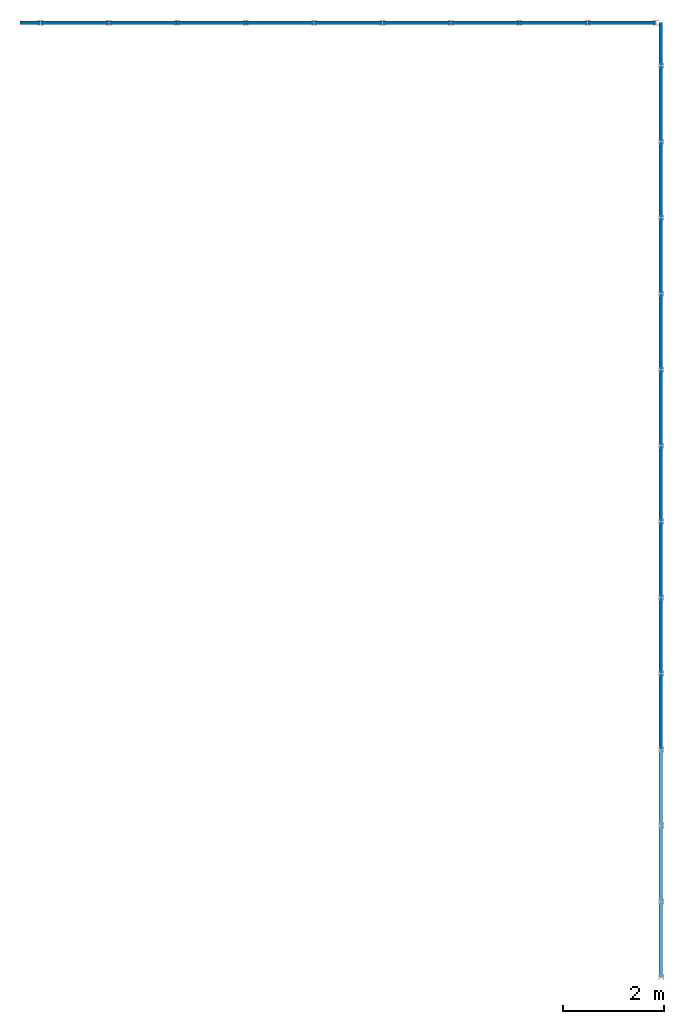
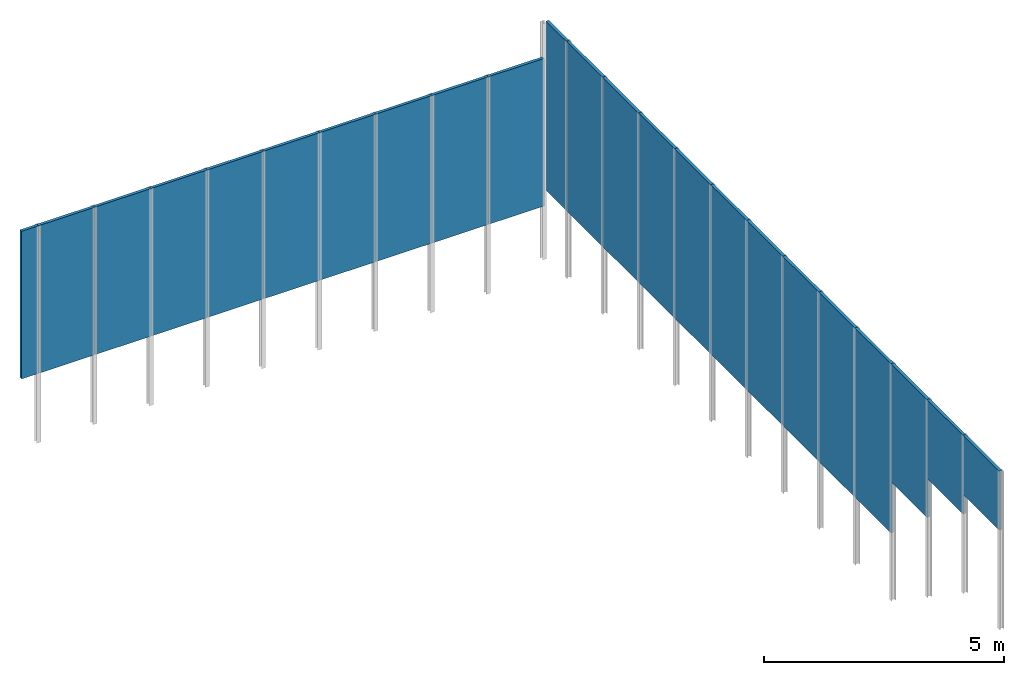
# One storey, part 1 of 4: 23 walls.
"""IFC4 building model written with IfcOpenShell, lengths in metres."""

from ifc_helpers import new_model, entity, si_unit, converted_unit, derived_unit, frame, frame_2d, origin, origin_with_axes, place, context, subcontext, project, spatial, rectangle, extrude, material, layer, layer_set, layer_usage, element, save


model = new_model("IFC4")

# Units and contexts
model_context = context("Model", 3, precision=1e-05, world=origin())
body_context = subcontext(model_context, "Body", "Model", "MODEL_VIEW")
ifc_project = project(units=[si_unit("LENGTHUNIT", "METRE"), si_unit("AREAUNIT", "SQUARE_METRE"), si_unit("VOLUMEUNIT", "CUBIC_METRE"), si_unit("MASSUNIT", "GRAM", prefix="KILO"), converted_unit("PLANEANGLEUNIT", "DEGREE", entity("IfcPlaneAngleMeasure", 0.0174532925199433), si_unit("PLANEANGLEUNIT", "RADIAN"), dimensions=[0, 0, 0, 0, 0, 0, 0]), derived_unit("THERMALTRANSMITTANCEUNIT", [(si_unit("POWERUNIT", "WATT"), 1), (si_unit("THERMODYNAMICTEMPERATUREUNIT", "KELVIN"), -1), (si_unit("LENGTHUNIT", "METRE"), -2)]), derived_unit("VOLUMETRICFLOWRATEUNIT", [(si_unit("LENGTHUNIT", "METRE"), 3), (converted_unit("TIMEUNIT", "hour", entity("IfcTimeMeasure", 3600.0), si_unit("TIMEUNIT", "SECOND"), dimensions=[0, 0, 1, 0, 0, 0, 0]), -1), (si_unit("LENGTHUNIT", "METRE"), -1)])], contexts=[model_context])

# Site, building, storey
site_placement = place(None, origin())
site = spatial("IfcSite", under=ifc_project, at=site_placement, Name="3. ASŘ", CompositionType="ELEMENT")
building_placement = place(site_placement, origin())
building = spatial("IfcBuilding", under=site, at=building_placement, Name="Pavilon C", CompositionType="ELEMENT")
storey_placement = place(building_placement, origin())
storey = spatial("IfcBuildingStorey", under=building, at=storey_placement, Name="Výkopy", CompositionType="ELEMENT", Elevation=0.0)

# Walls
ifc_material_1 = material(Name="VÝDŘEVA")
ifc_layer_1 = layer(ifc_material_1, 0.07)
ifc_layer_set_1 = layer_set([ifc_layer_1])
ifc_layer_usage_1 = layer_usage(ifc_layer_set_1, "AXIS2", "POSITIVE", 0.0)
wall_1_placement = place(storey_placement, frame((64.403, 18.6850000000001, -4.45)))
element("IfcWall", 1, at=wall_1_placement, inside=storey, material=ifc_layer_usage_1, Name="VÝDŘEVA", context=body_context, shape_type="SweptSolid", body=[
    extrude(rectangle(XDim=1.344, YDim=0.07, at=frame_2d((0.672, 0.035), x_axis=(1.0, 0.0))), origin_with_axes(), (0.0, 0.0, 1.0), 3.75),
])
ifc_material_2 = material(Name="VÝDŘEVA")
ifc_layer_2 = layer(ifc_material_2, 0.07)
ifc_layer_set_2 = layer_set([ifc_layer_2])
ifc_layer_usage_2 = layer_usage(ifc_layer_set_2, "AXIS2", "POSITIVE", 0.0)
wall_2_placement = place(storey_placement, frame((63.053, 18.6850000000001, -4.45)))
element("IfcWall", 2, at=wall_2_placement, inside=storey, material=ifc_layer_usage_2, Name="VÝDŘEVA", context=body_context, shape_type="SweptSolid", body=[
    extrude(rectangle(XDim=1.344, YDim=0.07, at=frame_2d((0.672, 0.035), x_axis=(1.0, 0.0))), origin_with_axes(), (0.0, 0.0, 1.0), 3.75),
])
ifc_material_3 = material(Name="VÝDŘEVA")
ifc_layer_3 = layer(ifc_material_3, 0.07)
ifc_layer_set_3 = layer_set([ifc_layer_3])
ifc_layer_usage_3 = layer_usage(ifc_layer_set_3, "AXIS2", "POSITIVE", 0.0)
wall_3_placement = place(storey_placement, frame((61.703, 18.6850000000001, -4.45)))
element("IfcWall", 3, at=wall_3_placement, inside=storey, material=ifc_layer_usage_3, Name="VÝDŘEVA", context=body_context, shape_type="SweptSolid", body=[
    extrude(rectangle(XDim=1.344, YDim=0.07, at=frame_2d((0.672, 0.035), x_axis=(1.0, 0.0))), origin_with_axes(), (0.0, 0.0, 1.0), 3.75),
])
ifc_material_4 = material(Name="VÝDŘEVA")
ifc_layer_4 = layer(ifc_material_4, 0.07)
ifc_layer_set_4 = layer_set([ifc_layer_4])
ifc_layer_usage_4 = layer_usage(ifc_layer_set_4, "AXIS2", "POSITIVE", 0.0)
wall_4_placement = place(storey_placement, frame((60.353, 18.6850000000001, -4.45)))
element("IfcWall", 4, at=wall_4_placement, inside=storey, material=ifc_layer_usage_4, Name="VÝDŘEVA", context=body_context, shape_type="SweptSolid", body=[
    extrude(rectangle(XDim=1.344, YDim=0.07, at=frame_2d((0.672, 0.035), x_axis=(1.0, 0.0))), origin_with_axes(), (0.0, 0.0, 1.0), 3.75),
])
ifc_material_5 = material(Name="VÝDŘEVA")
ifc_layer_5 = layer(ifc_material_5, 0.07)
ifc_layer_set_5 = layer_set([ifc_layer_5])
ifc_layer_usage_5 = layer_usage(ifc_layer_set_5, "AXIS2", "POSITIVE", 0.0)
wall_5_placement = place(storey_placement, frame((59.003, 18.6850000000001, -4.45)))
element("IfcWall", 5, at=wall_5_placement, inside=storey, material=ifc_layer_usage_5, Name="VÝDŘEVA", context=body_context, shape_type="SweptSolid", body=[
    extrude(rectangle(XDim=1.344, YDim=0.07, at=frame_2d((0.672, 0.035), x_axis=(1.0, 0.0))), origin_with_axes(), (0.0, 0.0, 1.0), 3.75),
])
ifc_material_6 = material(Name="VÝDŘEVA")
ifc_layer_6 = layer(ifc_material_6, 0.07)
ifc_layer_set_6 = layer_set([ifc_layer_6])
ifc_layer_usage_6 = layer_usage(ifc_layer_set_6, "AXIS2", "POSITIVE", 0.0)
wall_6_placement = place(storey_placement, frame((57.653, 18.6850000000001, -4.45)))
element("IfcWall", 6, at=wall_6_placement, inside=storey, material=ifc_layer_usage_6, Name="VÝDŘEVA", context=body_context, shape_type="SweptSolid", body=[
    extrude(rectangle(XDim=1.344, YDim=0.07, at=frame_2d((0.672, 0.035), x_axis=(1.0, 0.0))), origin_with_axes(), (0.0, 0.0, 1.0), 3.75),
])
ifc_material_7 = material(Name="VÝDŘEVA")
ifc_layer_7 = layer(ifc_material_7, 0.07)
ifc_layer_set_7 = layer_set([ifc_layer_7])
ifc_layer_usage_7 = layer_usage(ifc_layer_set_7, "AXIS2", "POSITIVE", 0.0)
wall_7_placement = place(storey_placement, frame((56.303, 18.6850000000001, -4.45)))
element("IfcWall", 7, at=wall_7_placement, inside=storey, material=ifc_layer_usage_7, Name="VÝDŘEVA", context=body_context, shape_type="SweptSolid", body=[
    extrude(rectangle(XDim=1.344, YDim=0.07, at=frame_2d((0.672, 0.035), x_axis=(1.0, 0.0))), origin_with_axes(), (0.0, 0.0, 1.0), 3.75),
])
ifc_material_8 = material(Name="VÝDŘEVA")
ifc_layer_8 = layer(ifc_material_8, 0.07)
ifc_layer_set_8 = layer_set([ifc_layer_8])
ifc_layer_usage_8 = layer_usage(ifc_layer_set_8, "AXIS2", "POSITIVE", 0.0)
wall_8_placement = place(storey_placement, frame((54.953, 18.6850000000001, -4.45)))
element("IfcWall", 8, at=wall_8_placement, inside=storey, material=ifc_layer_usage_8, Name="VÝDŘEVA", context=body_context, shape_type="SweptSolid", body=[
    extrude(rectangle(XDim=1.344, YDim=0.07, at=frame_2d((0.672, 0.035), x_axis=(1.0, 0.0))), origin_with_axes(), (0.0, 0.0, 1.0), 3.75),
])
ifc_material_9 = material(Name="VÝDŘEVA")
ifc_layer_9 = layer(ifc_material_9, 0.07)
ifc_layer_set_9 = layer_set([ifc_layer_9])
ifc_layer_usage_9 = layer_usage(ifc_layer_set_9, "AXIS2", "POSITIVE", 0.0)
wall_9_placement = place(storey_placement, frame((53.603, 18.6850000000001, -4.45)))
element("IfcWall", 9, at=wall_9_placement, inside=storey, material=ifc_layer_usage_9, Name="VÝDŘEVA", context=body_context, shape_type="SweptSolid", body=[
    extrude(rectangle(XDim=1.344, YDim=0.07, at=frame_2d((0.672, 0.035), x_axis=(1.0, 0.0))), origin_with_axes(), (0.0, 0.0, 1.0), 3.75),
])
ifc_material_10 = material(Name="VÝDŘEVA")
ifc_layer_10 = layer(ifc_material_10, 0.07)
ifc_layer_set_10 = layer_set([ifc_layer_10])
ifc_layer_usage_10 = layer_usage(ifc_layer_set_10, "AXIS2", "POSITIVE", 0.0)
wall_10_placement = place(storey_placement, frame((53.195, 18.6850000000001, -4.45)))
element("IfcWall", 10, at=wall_10_placement, inside=storey, material=ifc_layer_usage_10, Name="VÝDŘEVA", context=body_context, shape_type="SweptSolid", body=[
    extrude(rectangle(XDim=0.401999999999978, YDim=0.07, at=frame_2d((0.200999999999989, 0.035), x_axis=(1.0, 0.0))), origin_with_axes(), (0.0, 0.0, 1.0), 3.75),
])
ifc_material_11 = material(Name="VÝDŘEVA")
ifc_layer_11 = layer(ifc_material_11, 0.07)
ifc_layer_set_11 = layer_set([ifc_layer_11])
ifc_layer_usage_11 = layer_usage(ifc_layer_set_11, "AXIS2", "POSITIVE", 0.0)
wall_11_placement = place(storey_placement, frame((65.81, 17.8720000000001, -4.1), z_axis=(0.0, 0.0, 1.0), x_axis=(0.0, -1.0, 0.0)))
element("IfcWall", 11, at=wall_11_placement, inside=storey, material=ifc_layer_usage_11, Name="VÝDŘEVA", context=body_context, shape_type="SweptSolid", body=[
    extrude(rectangle(XDim=1.494, YDim=0.07, at=frame_2d((0.747, 0.035), x_axis=(1.0, 0.0))), origin_with_axes(), (0.0, 0.0, 1.0), 4.3),
])
ifc_material_12 = material(Name="VÝDŘEVA")
ifc_layer_12 = layer(ifc_material_12, 0.07)
ifc_layer_set_12 = layer_set([ifc_layer_12])
ifc_layer_usage_12 = layer_usage(ifc_layer_set_12, "AXIS2", "POSITIVE", 0.0)
wall_12_placement = place(storey_placement, frame((65.81, 5.87200000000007, -4.1), z_axis=(0.0, 0.0, 1.0), x_axis=(0.0, -1.0, 0.0)))
element("IfcWall", 12, at=wall_12_placement, inside=storey, material=ifc_layer_usage_12, Name="VÝDŘEVA", context=body_context, shape_type="SweptSolid", body=[
    extrude(rectangle(XDim=1.494, YDim=0.07, at=frame_2d((0.747, 0.035), x_axis=(1.0, 0.0))), origin_with_axes(), (0.0, 0.0, 1.0), 4.3),
])
ifc_material_13 = material(Name="VÝDŘEVA")
ifc_layer_13 = layer(ifc_material_13, 0.07)
ifc_layer_set_13 = layer_set([ifc_layer_13])
ifc_layer_usage_13 = layer_usage(ifc_layer_set_13, "AXIS2", "POSITIVE", 0.0)
wall_13_placement = place(storey_placement, frame((65.81, 7.37200000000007, -4.1), z_axis=(0.0, 0.0, 1.0), x_axis=(0.0, -1.0, 0.0)))
element("IfcWall", 13, at=wall_13_placement, inside=storey, material=ifc_layer_usage_13, Name="VÝDŘEVA", context=body_context, shape_type="SweptSolid", body=[
    extrude(rectangle(XDim=1.494, YDim=0.07, at=frame_2d((0.747, 0.035), x_axis=(1.0, 0.0))), origin_with_axes(), (0.0, 0.0, 1.0), 4.3),
])
ifc_material_14 = material(Name="VÝDŘEVA")
ifc_layer_14 = layer(ifc_material_14, 0.07)
ifc_layer_set_14 = layer_set([ifc_layer_14])
ifc_layer_usage_14 = layer_usage(ifc_layer_set_14, "AXIS2", "POSITIVE", 0.0)
wall_14_placement = place(storey_placement, frame((65.81, 8.87200000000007, -4.1), z_axis=(0.0, 0.0, 1.0), x_axis=(0.0, -1.0, 0.0)))
element("IfcWall", 14, at=wall_14_placement, inside=storey, material=ifc_layer_usage_14, Name="VÝDŘEVA", context=body_context, shape_type="SweptSolid", body=[
    extrude(rectangle(XDim=1.494, YDim=0.07, at=frame_2d((0.747, 0.035), x_axis=(1.0, 0.0))), origin_with_axes(), (0.0, 0.0, 1.0), 4.3),
])
ifc_material_15 = material(Name="VÝDŘEVA")
ifc_layer_15 = layer(ifc_material_15, 0.07)
ifc_layer_set_15 = layer_set([ifc_layer_15])
ifc_layer_usage_15 = layer_usage(ifc_layer_set_15, "AXIS2", "POSITIVE", 0.0)
wall_15_placement = place(storey_placement, frame((65.81, 10.3720000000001, -4.1), z_axis=(0.0, 0.0, 1.0), x_axis=(0.0, -1.0, 0.0)))
element("IfcWall", 15, at=wall_15_placement, inside=storey, material=ifc_layer_usage_15, Name="VÝDŘEVA", context=body_context, shape_type="SweptSolid", body=[
    extrude(rectangle(XDim=1.494, YDim=0.07, at=frame_2d((0.747, 0.035), x_axis=(1.0, 0.0))), origin_with_axes(), (0.0, 0.0, 1.0), 4.3),
])
ifc_material_16 = material(Name="VÝDŘEVA")
ifc_layer_16 = layer(ifc_material_16, 0.07)
ifc_layer_set_16 = layer_set([ifc_layer_16])
ifc_layer_usage_16 = layer_usage(ifc_layer_set_16, "AXIS2", "POSITIVE", 0.0)
wall_16_placement = place(storey_placement, frame((65.81, 13.3720000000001, -4.1), z_axis=(0.0, 0.0, 1.0), x_axis=(0.0, -1.0, 0.0)))
element("IfcWall", 16, at=wall_16_placement, inside=storey, material=ifc_layer_usage_16, Name="VÝDŘEVA", context=body_context, shape_type="SweptSolid", body=[
    extrude(rectangle(XDim=1.494, YDim=0.07, at=frame_2d((0.747, 0.035), x_axis=(1.0, 0.0))), origin_with_axes(), (0.0, 0.0, 1.0), 4.3),
])
ifc_material_17 = material(Name="VÝDŘEVA")
ifc_layer_17 = layer(ifc_material_17, 0.07)
ifc_layer_set_17 = layer_set([ifc_layer_17])
ifc_layer_usage_17 = layer_usage(ifc_layer_set_17, "AXIS2", "POSITIVE", 0.0)
wall_17_placement = place(storey_placement, frame((65.81, 14.8720000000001, -4.1), z_axis=(0.0, 0.0, 1.0), x_axis=(0.0, -1.0, 0.0)))
element("IfcWall", 17, at=wall_17_placement, inside=storey, material=ifc_layer_usage_17, Name="VÝDŘEVA", context=body_context, shape_type="SweptSolid", body=[
    extrude(rectangle(XDim=1.494, YDim=0.07, at=frame_2d((0.747, 0.035), x_axis=(1.0, 0.0))), origin_with_axes(), (0.0, 0.0, 1.0), 4.3),
])
ifc_material_18 = material(Name="VÝDŘEVA")
ifc_layer_18 = layer(ifc_material_18, 0.07)
ifc_layer_set_18 = layer_set([ifc_layer_18])
ifc_layer_usage_18 = layer_usage(ifc_layer_set_18, "AXIS2", "POSITIVE", 0.0)
wall_18_placement = place(storey_placement, frame((65.81, 18.7220000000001, -4.1), z_axis=(0.0, 0.0, 1.0), x_axis=(0.0, -1.0, 0.0)))
element("IfcWall", 18, at=wall_18_placement, inside=storey, material=ifc_layer_usage_18, Name="VÝDŘEVA", context=body_context, shape_type="SweptSolid", body=[
    extrude(rectangle(XDim=0.844, YDim=0.07, at=frame_2d((0.422, 0.035), x_axis=(1.0, 0.0))), origin_with_axes(), (0.0, 0.0, 1.0), 4.3),
])
ifc_material_19 = material(Name="VÝDŘEVA")
ifc_layer_19 = layer(ifc_material_19, 0.07)
ifc_layer_set_19 = layer_set([ifc_layer_19])
ifc_layer_usage_19 = layer_usage(ifc_layer_set_19, "AXIS2", "POSITIVE", 0.0)
wall_19_placement = place(storey_placement, frame((65.81, 4.37200000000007, -2.8), z_axis=(0.0, 0.0, 1.0), x_axis=(0.0, -1.0, 0.0)))
element("IfcWall", 19, at=wall_19_placement, inside=storey, material=ifc_layer_usage_19, Name="VÝDŘEVA", context=body_context, shape_type="SweptSolid", body=[
    extrude(rectangle(XDim=1.494, YDim=0.07, at=frame_2d((0.747, 0.035), x_axis=(1.0, 0.0))), origin_with_axes(), (0.0, 0.0, 1.0), 3.0),
])
ifc_material_20 = material(Name="VÝDŘEVA")
ifc_layer_20 = layer(ifc_material_20, 0.07)
ifc_layer_set_20 = layer_set([ifc_layer_20])
ifc_layer_usage_20 = layer_usage(ifc_layer_set_20, "AXIS2", "POSITIVE", 0.0)
wall_20_placement = place(storey_placement, frame((65.81, 2.87200000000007, -1.8), z_axis=(0.0, 0.0, 1.0), x_axis=(0.0, -1.0, 0.0)))
element("IfcWall", 20, at=wall_20_placement, inside=storey, material=ifc_layer_usage_20, Name="VÝDŘEVA", context=body_context, shape_type="SweptSolid", body=[
    extrude(rectangle(XDim=1.494, YDim=0.07, at=frame_2d((0.747, 0.035), x_axis=(1.0, 0.0))), origin_with_axes(), (0.0, 0.0, 1.0), 2.0),
])
ifc_material_21 = material(Name="VÝDŘEVA")
ifc_layer_21 = layer(ifc_material_21, 0.07)
ifc_layer_set_21 = layer_set([ifc_layer_21])
ifc_layer_usage_21 = layer_usage(ifc_layer_set_21, "AXIS2", "POSITIVE", 0.0)
wall_21_placement = place(storey_placement, frame((65.81, 1.37200000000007, -1.3), z_axis=(0.0, 0.0, 1.0), x_axis=(0.0, -1.0, 0.0)))
element("IfcWall", 21, at=wall_21_placement, inside=storey, material=ifc_layer_usage_21, Name="VÝDŘEVA", context=body_context, shape_type="SweptSolid", body=[
    extrude(rectangle(XDim=1.494, YDim=0.07, at=frame_2d((0.747, 0.035), x_axis=(1.0, 0.0))), origin_with_axes(), (0.0, 0.0, 1.0), 1.5),
])
ifc_material_22 = material(Name="VÝDŘEVA")
ifc_layer_22 = layer(ifc_material_22, 0.07)
ifc_layer_set_22 = layer_set([ifc_layer_22])
ifc_layer_usage_22 = layer_usage(ifc_layer_set_22, "AXIS2", "POSITIVE", 0.0)
wall_22_placement = place(storey_placement, frame((65.81, 11.8720000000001, -4.1), z_axis=(0.0, 0.0, 1.0), x_axis=(0.0, -1.0, 0.0)))
element("IfcWall", 22, at=wall_22_placement, inside=storey, material=ifc_layer_usage_22, Name="VÝDŘEVA", context=body_context, shape_type="SweptSolid", body=[
    extrude(rectangle(XDim=1.494, YDim=0.07, at=frame_2d((0.747, 0.035), x_axis=(1.0, 0.0))), origin_with_axes(), (0.0, 0.0, 1.0), 4.3),
])
ifc_material_23 = material(Name="VÝDŘEVA")
ifc_layer_23 = layer(ifc_material_23, 0.07)
ifc_layer_set_23 = layer_set([ifc_layer_23])
ifc_layer_usage_23 = layer_usage(ifc_layer_set_23, "AXIS2", "POSITIVE", 0.0)
wall_23_placement = place(storey_placement, frame((65.81, 16.3720000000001, -4.1), z_axis=(0.0, 0.0, 1.0), x_axis=(0.0, -1.0, 0.0)))
element("IfcWall", 23, at=wall_23_placement, inside=storey, material=ifc_layer_usage_23, Name="VÝDŘEVA", context=body_context, shape_type="SweptSolid", body=[
    extrude(rectangle(XDim=1.494, YDim=0.07, at=frame_2d((0.747, 0.035), x_axis=(1.0, 0.0))), origin_with_axes(), (0.0, 0.0, 1.0), 4.3),
])

save(model, "model.ifc")
